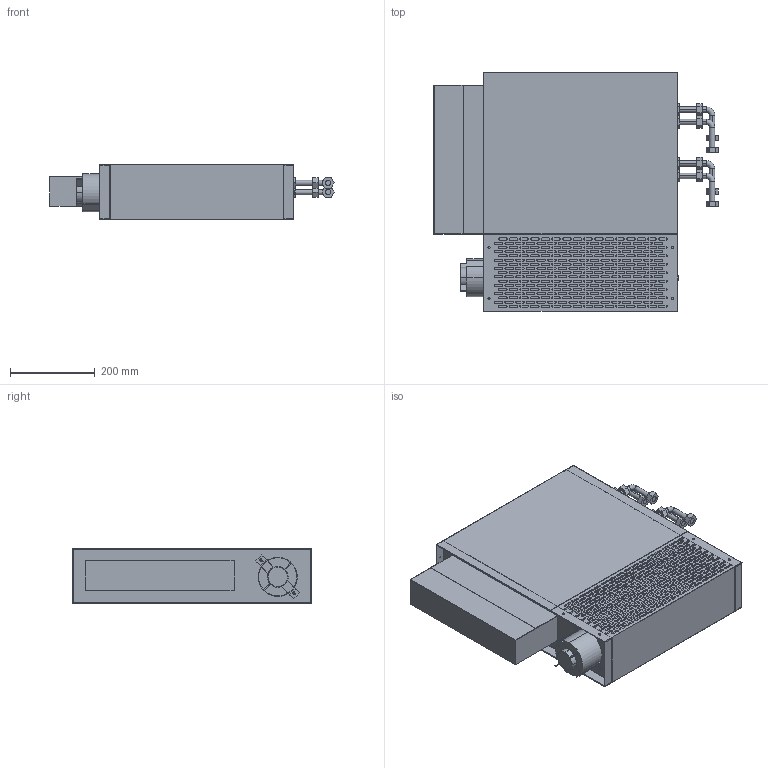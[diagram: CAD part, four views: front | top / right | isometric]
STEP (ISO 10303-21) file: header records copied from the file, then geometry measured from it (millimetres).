
FILE_DESCRIPTION (( 'STEP AP214' ), '1' );
FILE_NAME ('PFWSLA-01-4pipe_v2.STEP', '2024-10-22T13:49:42', ( '' ), ( '' ), 'SwSTEP 2.0', 'SolidWorks 2023', '' );
FILE_SCHEMA (( 'AUTOMOTIVE_DESIGN' ));
Length unit declared in the file: inch
Products named in the file (1): PFWSLA-01-4pipe_v2
Bounding box: 670.01 x 561.98 x 130.18 mm (x, y, z)
Volume: 11217027.9 mm3; surface area: 2455746.6 mm2
Topology: 32 solids, 32 shells, 2299 faces, 6371 edges, 4230 vertices
Faces by surface type: plane 1306, cylinder 985, torus 8
Entity records: 75383 total; most frequent: DIRECTION 12965, CARTESIAN_POINT 12901, ORIENTED_EDGE 12742, EDGE_CURVE 6371, LINE 4377, VECTOR 4377, AXIS2_PLACEMENT_3D 4294, VERTEX_POINT 4230
